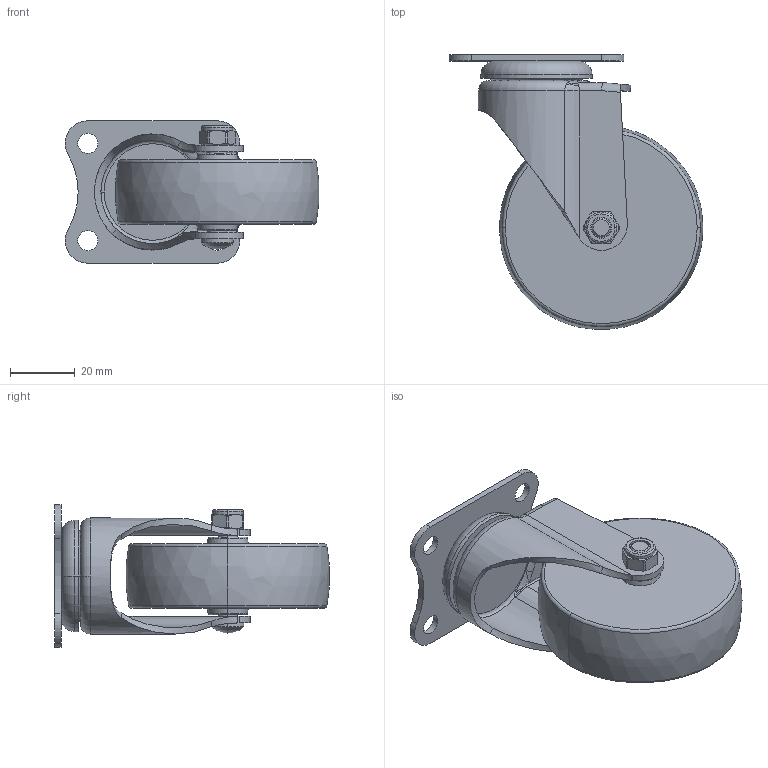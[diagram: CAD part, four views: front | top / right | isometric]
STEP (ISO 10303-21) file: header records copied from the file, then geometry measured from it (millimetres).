
FILE_DESCRIPTION((''),'2;1');
FILE_NAME('261125-2625-83_ASM','2019-12-13T',('L'),(''),'PRO/ENGINEER BY PARAMETRIC TECHNOLOGY CORPORATION, 2010280','PRO/ENGINEER BY PARAMETRIC TECHNOLOGY CORPORATION, 2010280','');
FILE_SCHEMA(('CONFIG_CONTROL_DESIGN'));
Length unit declared in the file: millimetre
Products named in the file (5): 261125; 2625-83; 2610-020; 2610-031; 261125-2625-83_ASM
Assembly tree (4 placements, depth 2):
  261125-2625-83_ASM
    261125
    2625-83
    2610-020
    2610-031
Bounding box: 78.41 x 84.9 x 44 mm (x, y, z)
Volume: 79331.2 mm3; surface area: 25646.2 mm2
Topology: 4 solids, 4 shells, 174 faces, 412 edges, 249 vertices
Faces by surface type: cylinder 57, plane 38, torus 30, bspline 29, cone 18, sphere 2
Entity records: 6687 total; most frequent: CARTESIAN_POINT 2657, DIRECTION 842, ORIENTED_EDGE 812, EDGE_CURVE 406, AXIS2_PLACEMENT_3D 362, VERTEX_POINT 249, CIRCLE 208, EDGE_LOOP 199
